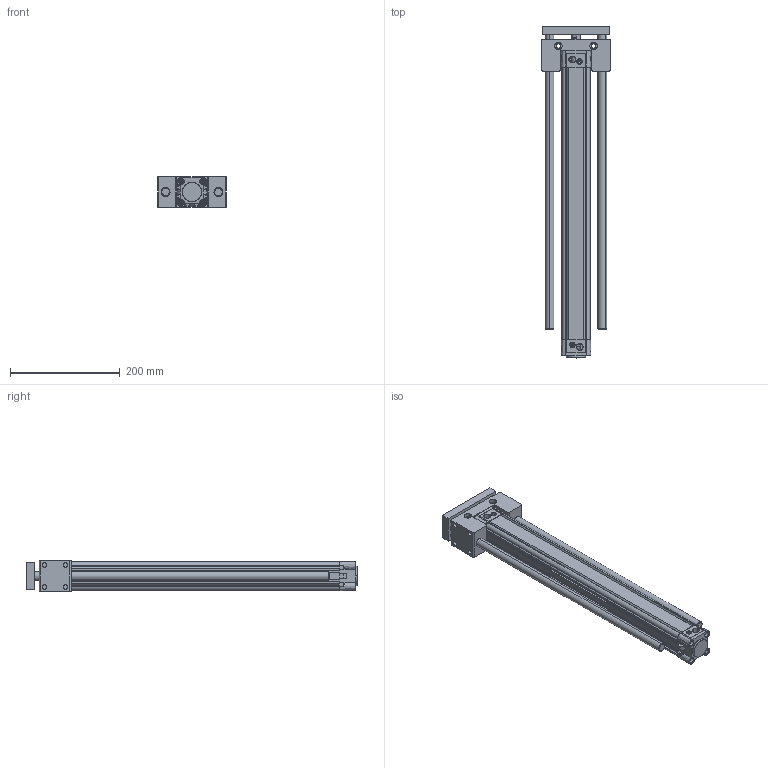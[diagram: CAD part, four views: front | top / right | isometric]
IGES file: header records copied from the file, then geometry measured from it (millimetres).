
Start section: SolidWorks IGES file using analytic representation for surfaces
Global section: file name: D:\ARICA 3D 禽Z軲LER\3D IGES\DNC-U\KDNC\40\KDNC40X450-U-YATAK.IGS,1; native system: 5HSolidWorks 2013; preprocessor: SolidWorks 2013; author: user; date: 160907.170834; units: millimetre
Bounding box: 125.5 x 604 x 55 mm (x, y, z)
Surface area: 442793.1 mm2 (no closed solid volume)
Topology: 0 solids, 0 shells, 785 faces, 13401 edges, 13395 vertices
Faces by surface type: revolution 453, bspline 332
